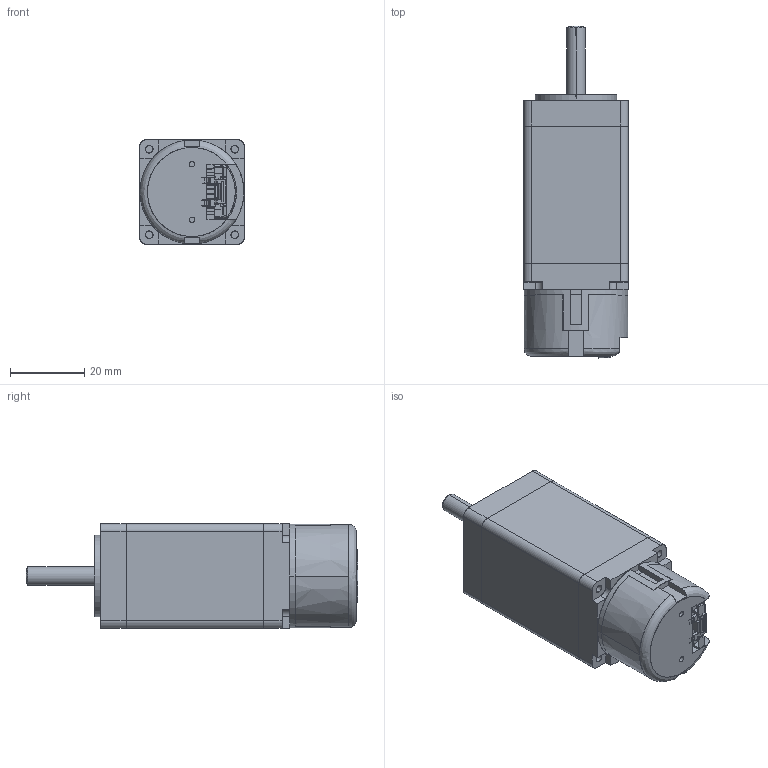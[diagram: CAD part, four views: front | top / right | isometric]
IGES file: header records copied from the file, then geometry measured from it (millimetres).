
Start section: SolidWorks IGES file using analytic representation for surfaces
Global section: file name: C:\Users\IEUser\Dropbox\Arcus\Project #21 Motor Drawings\STM-11-3-2-E100A\STM-11-3-2-E100A.IGS; native system: SolidWorks 2008; preprocessor: SolidWorks 2008; author: IEUser; date: 131218.205225; units: millimetre
Bounding box: 28.2 x 89.45 x 28.2 mm (x, y, z)
Surface area: 18195.8 mm2 (no closed solid volume)
Topology: 0 solids, 0 shells, 1015 faces, 7511 edges, 7499 vertices
Faces by surface type: bspline 841, revolution 174
